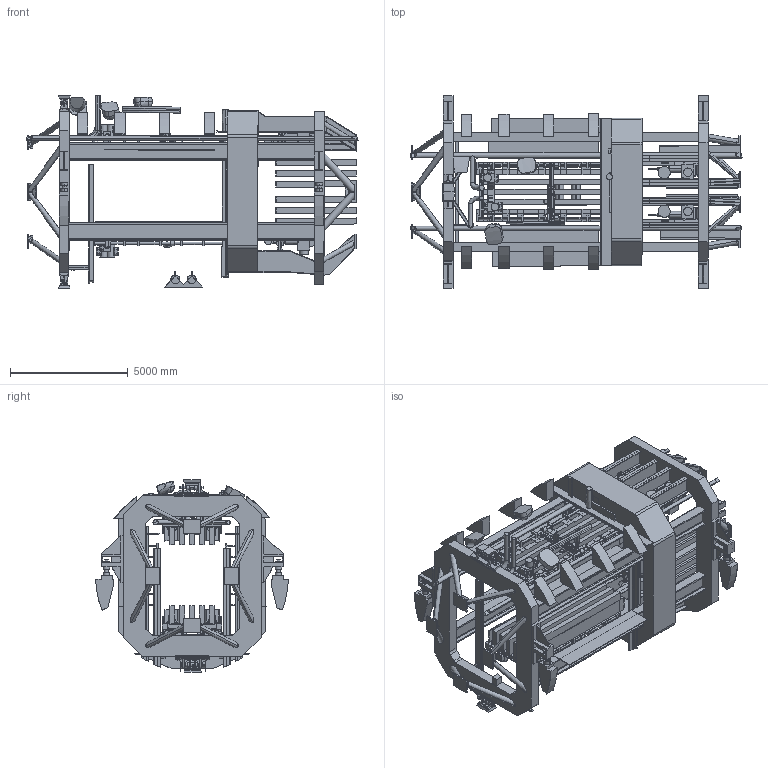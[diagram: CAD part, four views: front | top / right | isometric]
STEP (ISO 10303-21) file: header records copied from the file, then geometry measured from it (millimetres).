
FILE_DESCRIPTION(/* description */ (''),/* implementation_level */ '2;1');
FILE_NAME(/* name */ 'NTF_Additional_Obstructions_2023_10_02.stp',/* time_stamp */ '2023-10-02T14:26:07-04:00',/* author */ (''),/* organization */ (''),/* preprocessor_version */ 'ST-DEVELOPER v16.7',/* originating_system */ 'SIEMENS PLM Software NX 12.0',/* authorisation */ '');
FILE_SCHEMA (('AUTOMOTIVE_DESIGN { 1 0 10303 214 3 1 1 1 }'));
Products named in the file (1): sbry3178F678wn4v
Bounding box: 14075.65 x 8176.22 x 8180.12 mm (x, y, z)
Volume: 61865848349.3 mm3; surface area: 893895402.7 mm2
Topology: 64 solids, 64 shells, 4374 faces, 11752 edges, 7484 vertices
Faces by surface type: plane 2818, cylinder 945, bspline 475, cone 61, extrusion 41, torus 18, sphere 16
Full cylindrical faces by diameter (mm): 76.2 x1
Entity records: 187656 total; most frequent: CARTESIAN_POINT 83643, ORIENTED_EDGE 23450, DIRECTION 18718, EDGE_CURVE 11725, VERTEX_POINT 7476, VECTOR 7376, LINE 7335, AXIS2_PLACEMENT_3D 5671
